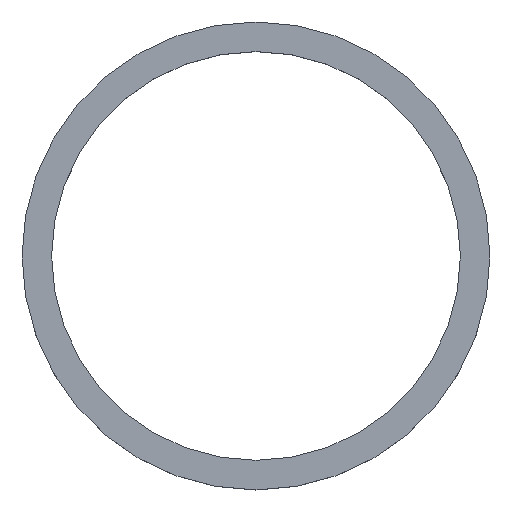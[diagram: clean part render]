
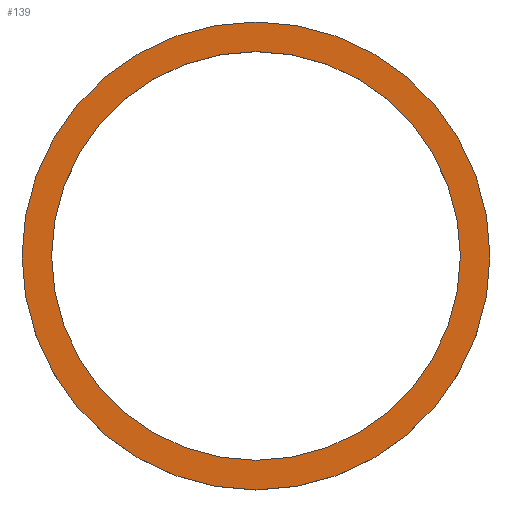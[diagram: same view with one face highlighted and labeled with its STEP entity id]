
A CAD part, top view. The second image highlights one B-rep face of the part: STEP entity #139.
In plain terms, the highlighted planar face has unit normal (0, 0, 1).
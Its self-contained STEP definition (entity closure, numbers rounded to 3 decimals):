
#24 = VERTEX_POINT('',#25);
#25 = CARTESIAN_POINT('',(48.,0.,-23.));
#32 = CYLINDRICAL_SURFACE('',#33,48.);
#33 = AXIS2_PLACEMENT_3D('',#34,#35,#36);
#34 = CARTESIAN_POINT('',(0.,0.,-35.));
#35 = DIRECTION('',(-0.,-0.,-1.));
#36 = DIRECTION('',(1.,0.,0.));
#51 = EDGE_CURVE('',#24,#24,#52,.T.);
#52 = SURFACE_CURVE('',#53,(#58,#65),.PCURVE_S1.);
#53 = CIRCLE('',#54,48.);
#54 = AXIS2_PLACEMENT_3D('',#55,#56,#57);
#55 = CARTESIAN_POINT('',(0.,0.,-23.));
#56 = DIRECTION('',(0.,0.,1.));
#57 = DIRECTION('',(1.,0.,0.));
#58 = PCURVE('',#32,#59);
#59 = DEFINITIONAL_REPRESENTATION('',(#60),#64);
#60 = LINE('',#61,#62);
#61 = CARTESIAN_POINT('',(-0.,-12.));
#62 = VECTOR('',#63,1.);
#63 = DIRECTION('',(-1.,0.));
#64 = ( GEOMETRIC_REPRESENTATION_CONTEXT(2) 
PARAMETRIC_REPRESENTATION_CONTEXT() REPRESENTATION_CONTEXT('2D SPACE',''
  ) );
#65 = PCURVE('',#66,#71);
#66 = PLANE('',#67);
#67 = AXIS2_PLACEMENT_3D('',#68,#69,#70);
#68 = CARTESIAN_POINT('',(0.,0.,-23.));
#69 = DIRECTION('',(0.,0.,1.));
#70 = DIRECTION('',(1.,0.,-0.));
#71 = DEFINITIONAL_REPRESENTATION('',(#72),#76);
#72 = CIRCLE('',#73,48.);
#73 = AXIS2_PLACEMENT_2D('',#74,#75);
#74 = CARTESIAN_POINT('',(0.,0.));
#75 = DIRECTION('',(1.,0.));
#76 = ( GEOMETRIC_REPRESENTATION_CONTEXT(2) 
PARAMETRIC_REPRESENTATION_CONTEXT() REPRESENTATION_CONTEXT('2D SPACE',''
  ) );
#125 = CYLINDRICAL_SURFACE('',#126,54.95);
#126 = AXIS2_PLACEMENT_3D('',#127,#128,#129);
#127 = CARTESIAN_POINT('',(0.,0.,-35.));
#128 = DIRECTION('',(-0.,-0.,-1.));
#129 = DIRECTION('',(1.,0.,0.));
#139 = ADVANCED_FACE('',(#140,#166),#66,.T.);
#140 = FACE_BOUND('',#141,.T.);
#141 = EDGE_LOOP('',(#142));
#142 = ORIENTED_EDGE('',*,*,#143,.T.);
#143 = EDGE_CURVE('',#144,#144,#146,.T.);
#144 = VERTEX_POINT('',#145);
#145 = CARTESIAN_POINT('',(54.95,0.,-23.));
#146 = SURFACE_CURVE('',#147,(#152,#159),.PCURVE_S1.);
#147 = CIRCLE('',#148,54.95);
#148 = AXIS2_PLACEMENT_3D('',#149,#150,#151);
#149 = CARTESIAN_POINT('',(0.,0.,-23.));
#150 = DIRECTION('',(0.,0.,1.));
#151 = DIRECTION('',(1.,0.,0.));
#152 = PCURVE('',#66,#153);
#153 = DEFINITIONAL_REPRESENTATION('',(#154),#158);
#154 = CIRCLE('',#155,54.95);
#155 = AXIS2_PLACEMENT_2D('',#156,#157);
#156 = CARTESIAN_POINT('',(0.,0.));
#157 = DIRECTION('',(1.,0.));
#158 = ( GEOMETRIC_REPRESENTATION_CONTEXT(2) 
PARAMETRIC_REPRESENTATION_CONTEXT() REPRESENTATION_CONTEXT('2D SPACE',''
  ) );
#159 = PCURVE('',#125,#160);
#160 = DEFINITIONAL_REPRESENTATION('',(#161),#165);
#161 = LINE('',#162,#163);
#162 = CARTESIAN_POINT('',(-0.,-12.));
#163 = VECTOR('',#164,1.);
#164 = DIRECTION('',(-1.,0.));
#165 = ( GEOMETRIC_REPRESENTATION_CONTEXT(2) 
PARAMETRIC_REPRESENTATION_CONTEXT() REPRESENTATION_CONTEXT('2D SPACE',''
  ) );
#166 = FACE_BOUND('',#167,.T.);
#167 = EDGE_LOOP('',(#168));
#168 = ORIENTED_EDGE('',*,*,#51,.F.);
